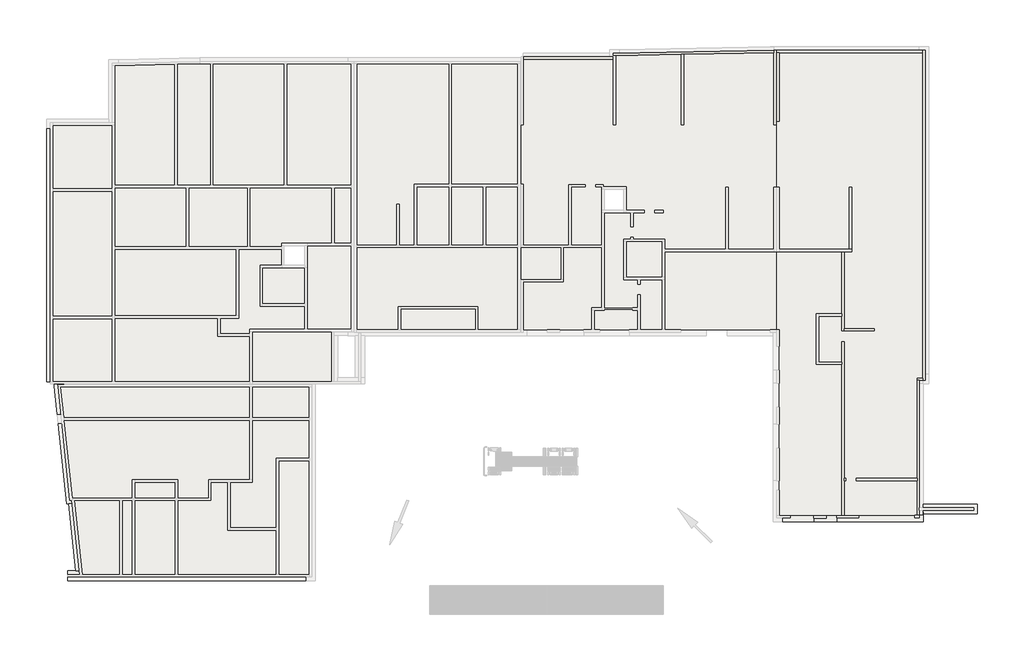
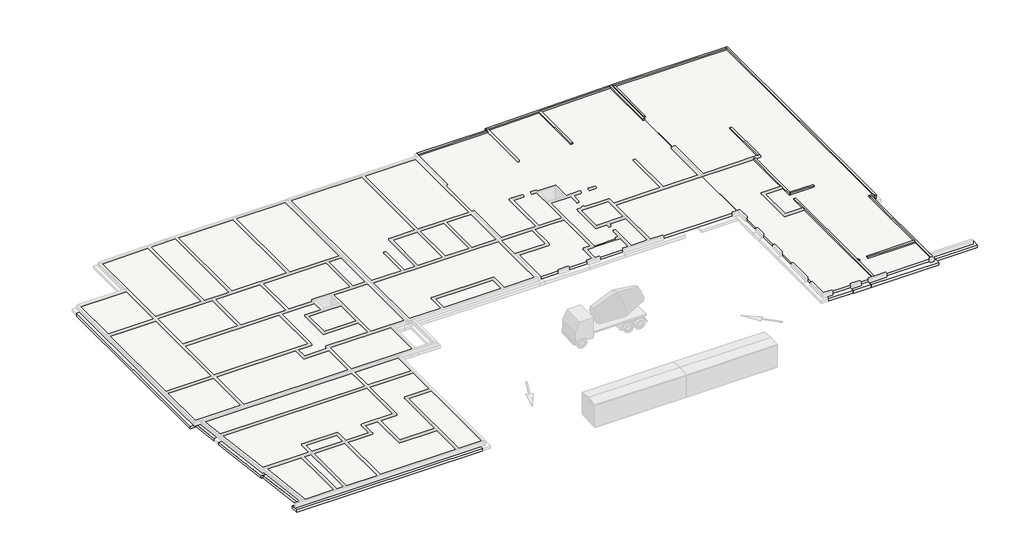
# One storey, part 3 of 5: 15 footings, 15 walls, 7 slabs.
"""IFC4 building model written with IfcOpenShell, lengths in millimetres."""

import ifcopenshell
import ifcopenshell.guid

model = None  # the IFC model being written
_history = None  # IfcOwnerHistory: only IFC2X3 demands one
_inside = {}  # id of a spatial element -> (the spatial element, [elements in it])
_under = {}  # id of a project, library or spatial element -> (it, [spatial elements below it])
_declared = {}  # id of a project -> (the project, [libraries it declares])
_typed = {}  # id of a type object -> (the type object, [elements of that type])
_made_of = {}  # id of a material, layer set ... -> (it, [elements and type objects made of it])


def new_model(schema):
    """Start an empty IFC model of exactly this schema.

    Asked for "IFC4X3", IfcOpenShell would pick the latest addendum, in which some entities
    have other attributes; the version numbers below select the first issue.
    IFC2X3 requires an IfcOwnerHistory on every rooted entity: one is made here for all.
    """
    global model, _history
    if schema == "IFC4X3":
        model = ifcopenshell.file(schema_version=(4, 3, 0, 0))
    else:
        model = ifcopenshell.file(schema=schema)
    _inside.clear()
    _under.clear()
    _declared.clear()
    _typed.clear()
    _made_of.clear()
    _history = None
    if model.schema == "IFC2X3":
        org = make("IfcOrganization", Name="unknown")
        user = make(
            "IfcPersonAndOrganization",
            ThePerson=make("IfcPerson", FamilyName="unknown"),
            TheOrganization=org,
        )
        app = make(
            "IfcApplication",
            ApplicationDeveloper=org,
            Version="unknown",
            ApplicationFullName="unknown",
            ApplicationIdentifier="unknown",
        )
        _history = make(
            "IfcOwnerHistory",
            OwningUser=user,
            OwningApplication=app,
            ChangeAction="ADDED",
            CreationDate=0,
        )
    return model


def make(cls, **values):
    """One entity of the class cls with the attributes given. An attribute that is None is left unset."""
    return model.create_entity(
        cls, **{name: value for name, value in values.items() if value is not None}
    )


def rooted(cls, **values):
    """An entity with a GlobalId (a new one), such as an element, a storey or a relation."""
    return make(cls, GlobalId=ifcopenshell.guid.new(), OwnerHistory=_history, **values)


def si_unit(unit_type, name, prefix=None):
    """IfcSIUnit, for example si_unit("LENGTHUNIT", "METRE", prefix="MILLI")."""
    return make("IfcSIUnit", UnitType=unit_type, Prefix=prefix, Name=name)


def assignment(units):
    """IfcUnitAssignment: the units of a project."""
    return None if units is None else make("IfcUnitAssignment", Units=units)


def point(xyz):
    """IfcCartesianPoint."""
    return None if xyz is None else make("IfcCartesianPoint", Coordinates=xyz)


def direction(xyz):
    """IfcDirection."""
    return None if xyz is None else make("IfcDirection", DirectionRatios=xyz)


def frame(location, z_axis=None, x_axis=None):
    """IfcAxis2Placement3D, a coordinate frame: its origin and axes. An axis left out is left unset."""
    return make(
        "IfcAxis2Placement3D",
        Location=point(location),
        Axis=direction(z_axis),
        RefDirection=direction(x_axis),
    )


def origin():
    """The frame at (0, 0, 0) with its axes left unset."""
    return frame((0.0, 0.0, 0.0))


def place(relative_to, where):
    """IfcLocalPlacement: puts the frame where relative to a parent placement (None: the world)."""
    return make(
        "IfcLocalPlacement", PlacementRelTo=relative_to, RelativePlacement=where
    )


def context(
    kind, dimensions, precision=None, world=None, true_north=None, identifier=None
):
    """IfcGeometricRepresentationContext, for example the 3D "Model" context."""
    return make(
        "IfcGeometricRepresentationContext",
        ContextIdentifier=identifier,
        ContextType=kind,
        CoordinateSpaceDimension=dimensions,
        Precision=precision,
        WorldCoordinateSystem=world,
        TrueNorth=true_north,
    )


def project(units=None, contexts=None):
    """IfcProject with its units and contexts."""
    return rooted(
        "IfcProject",
        Name="project",
        RepresentationContexts=contexts,
        UnitsInContext=assignment(units),
    )


def spatial(cls, under=None, at=None, **own):
    """A site, building, storey or space (cls), placed at a placement, below another one or the project."""
    s = rooted(cls, ObjectPlacement=at, **own)
    if under is not None:
        _under.setdefault(under.id(), (under, []))[1].append(s)
    return s


def polyline(points):
    """IfcPolyline through the points."""
    return make("IfcPolyline", Points=[point(p) for p in points])


def outline(outer, holes=None, kind="AREA"):
    """IfcArbitraryClosedProfileDef: a profile drawn as a closed curve; with holes, ...WithVoids."""
    if holes is None:
        return make("IfcArbitraryClosedProfileDef", ProfileType=kind, OuterCurve=outer)
    return make(
        "IfcArbitraryProfileDefWithVoids",
        ProfileType=kind,
        OuterCurve=outer,
        InnerCurves=holes,
    )


def extrude(swept, where, along, depth):
    """IfcExtrudedAreaSolid: the profile swept, set in the frame where, extruded along a direction by depth."""
    return make(
        "IfcExtrudedAreaSolid",
        SweptArea=swept,
        Position=where,
        ExtrudedDirection=direction(along),
        Depth=depth,
    )


def faces_of(points, faces, orient=None, outer=None):
    """IfcFace entities. A face is a list of loops; a loop is a list of indices into points, from 0.

    orient and outer hold one flag for each loop. By default every Orientation is true, the
    first loop of a face is its IfcFaceOuterBound and the others are IfcFaceBound.
    """
    made = []
    for i, loops in enumerate(faces):
        bounds = []
        for j, loop in enumerate(loops):
            is_outer = j == 0 if outer is None else outer[i][j]
            bounds.append(
                make(
                    "IfcFaceOuterBound" if is_outer else "IfcFaceBound",
                    Bound=make("IfcPolyLoop", Polygon=[points[k] for k in loop]),
                    Orientation=True if orient is None else orient[i][j],
                )
            )
        made.append(make("IfcFace", Bounds=bounds))
    return made


def faceted_brep(points, faces, orient=None, outer=None, voids=None):
    """IfcFacetedBrep: a solid bounded by flat faces; with voids (closed shells), ...WithVoids."""
    shared = [point(p) for p in points]
    hull = make("IfcClosedShell", CfsFaces=faces_of(shared, faces, orient, outer))
    if voids is None:
        return make("IfcFacetedBrep", Outer=hull)
    return make(
        "IfcFacetedBrepWithVoids",
        Outer=hull,
        Voids=[
            make(cls, CfsFaces=faces_of(shared, fs, o, b)) for cls, fs, o, b in voids
        ],
    )


def shape(context_of_items, identifier, shape_type, items):
    """IfcShapeRepresentation: the items that make up one representation, for example the "Body"."""
    return make(
        "IfcShapeRepresentation",
        ContextOfItems=context_of_items,
        RepresentationIdentifier=identifier,
        RepresentationType=shape_type,
        Items=items,
    )


def made_of(thing, what):
    """Note that an element or type object is made of a material, layer set ...; save() writes the relation."""
    if what is not None:
        _made_of.setdefault(what.id(), (what, []))[1].append(thing)
    return thing


def element(
    cls,
    number,
    at=None,
    inside=None,
    cuts=None,
    type_object=None,
    material=None,
    context=None,
    identifier="Body",
    shape_type=None,
    held_by="IfcProductDefinitionShape",
    body=None,
    shapes=None,
    **own,
):
    """One element of the class cls, such as IfcWall. Its Tag is "e" and its number.

    at: its placement. inside: the storey or other place that contains it. cuts: it is an
    opening in that element (IfcRelVoidsElement). A single representation is given by context,
    identifier, shape_type and body (its items); several are given by shapes. held_by: the class
    of the entity that holds the representations. save() writes the other relations.
    """
    e = rooted(cls, Tag="e%d" % number, ObjectPlacement=at, **own)
    if body is not None:
        shapes = [shape(context, identifier, shape_type, body)]
    if shapes is not None:
        e.Representation = make(held_by, Representations=shapes)
    if inside is not None:
        _inside.setdefault(inside.id(), (inside, []))[1].append(e)
    if cuts is not None:
        rooted(
            "IfcRelVoidsElement", RelatingBuildingElement=cuts, RelatedOpeningElement=e
        )
    if type_object is not None:
        _typed.setdefault(type_object.id(), (type_object, []))[1].append(e)
    return made_of(e, material)


def aggregate(whole, parts):
    """IfcRelAggregates: a whole, such as a stair, and the parts it consists of."""
    return rooted("IfcRelAggregates", RelatingObject=whole, RelatedObjects=parts)


def save(model, path):
    """Write the relations noted so far, then the file.

    IfcRelAggregates (storeys below a building ...), IfcRelContainedInSpatialStructure (elements
    in a storey), IfcRelDefinesByType, IfcRelAssociatesMaterial and IfcRelDeclares: one each for
    every whole, place, type object, material and project.
    """
    for whole, parts in _under.values():
        aggregate(whole, parts)
    for where, things in _inside.values():
        rooted(
            "IfcRelContainedInSpatialStructure",
            RelatedElements=things,
            RelatingStructure=where,
        )
    for kind, things in _typed.values():
        rooted("IfcRelDefinesByType", RelatedObjects=things, RelatingType=kind)
    for what, things in _made_of.values():
        rooted("IfcRelAssociatesMaterial", RelatedObjects=things, RelatingMaterial=what)
    for by, libraries in _declared.values():
        rooted("IfcRelDeclares", RelatingContext=by, RelatedDefinitions=libraries)
    model.write(path)


model = new_model("IFC4")

# Units and contexts
model_context = context("Model", 3, world=origin())
ifc_project = project(units=[si_unit("LENGTHUNIT", "METRE", prefix="MILLI")], contexts=[model_context])

# Site, building, storey
site = spatial("IfcSite", under=ifc_project)
building = spatial("IfcBuilding", under=site)
storey = spatial("IfcBuildingStorey", under=building, Name="Base Mur soubassement", Elevation=-480.0)

# Footings
placement = place(None, origin())
element("IfcFooting", 1, ObjectType="Soubassement 30 cm/30 cm x 30 cm", at=placement, inside=storey, context=model_context, shape_type="Brep", body=[
    faceted_brep([(-1963.0020232, 10315.4117008, -480.0), (-1963.0020232, 10315.4117008, -780.0), (-1347.1943929, 10315.4117008, -780.0), (-1163.0020232, 10315.4117008, -780.0), (-1163.0020232, 10315.4117008, -480.0), (-1347.1943929, 10315.4117008, -480.0), (-1163.0020232, 10615.4625547, -480.0), (-1163.0020232, 15300.3661348, -480.0), (-1163.0020232, 16100.3661348, -480.0), (-1163.0020232, 26008.0923089, -480.0), (-1163.0020232, 26808.0923089, -480.0), (-1163.0020232, 31528.092309, -480.0), (-1963.0020232, 31528.092309, -480.0), (-1963.0020232, 31528.092309, -780.0), (-1163.0020232, 31528.092309, -780.0), (-1163.0020232, 26808.0923089, -780.0), (-1163.0020232, 26008.0923089, -780.0), (-1163.0020232, 16100.3661348, -780.0), (-1163.0020232, 15300.3661348, -780.0), (-1163.0020232, 10615.4625547, -780.0)], [[[0, 1, 2, 3, 4, 5]], [[0, 5, 4, 6, 7, 8, 9, 10, 11, 12]], [[1, 0, 12, 13]], [[3, 2, 1, 13, 14, 15, 16, 17, 18, 19]], [[4, 3, 19, 18, 17, 16, 15, 14, 11, 10, 9, 8, 7, 6]], [[12, 11, 14, 13]]]),
])
element("IfcFooting", 2, ObjectType="Soubassement 30 cm/30 cm x 30 cm", at=placement, inside=storey, context=model_context, shape_type="Brep", body=[
    faceted_brep([(-169.9979603, 6768.5535935, -480.0), (-974.404584, 6768.5535935, -480.0), (-267.3246929, 41.1378118, -480.0), (-108.0982579, 41.1378118, -480.0), (537.0819307, 41.1378118, -480.0), (452.9985425, 841.1378118, -480.0), (-169.9979603, 6768.5535935, -780.0), (537.0819307, 41.1378118, -780.0), (452.9985425, 841.1378118, -780.0), (-974.404584, 6768.5535935, -780.0), (-108.0982579, 41.1378118, -780.0), (-267.3246929, 41.1378118, -780.0)], [[[0, 1, 2, 3, 4, 5]], [[6, 0, 5, 4, 7, 8]], [[9, 6, 8, 7, 10, 11]], [[1, 9, 11, 2]], [[1, 0, 6, 9]], [[4, 3, 2, 11, 10, 7]]]),
    faceted_brep([(-1058.4879722, 7568.5535935, -480.0), (-254.0813485, 7568.5535935, -480.0), (-463.9649378, 9565.4625547, -480.0), (-574.3243848, 10615.4625547, -480.0), (-1163.0020232, 10615.4625547, -480.0), (-1163.0020232, 10315.4117008, -480.0), (-1347.1943929, 10315.4117008, -480.0), (-254.0813485, 7568.5535935, -780.0), (-463.9649378, 9565.4625547, -780.0), (-574.3243848, 10615.4625547, -780.0), (-1058.4879722, 7568.5535935, -780.0), (-1347.1943929, 10315.4117008, -780.0), (-1163.0020232, 10315.4117008, -780.0), (-1163.0020232, 10615.4625547, -780.0)], [[[0, 1, 2, 3, 4, 5, 6]], [[1, 7, 8, 9, 3, 2]], [[7, 10, 11, 12, 13, 9, 8]], [[10, 0, 6, 11]], [[1, 0, 10, 7]], [[3, 9, 13, 4]], [[5, 12, 11, 6]], [[12, 5, 4, 13]]]),
])
element("IfcFooting", 3, ObjectType="Soubassement 30 cm/30 cm x 30 cm", at=placement, inside=storey, context=model_context, shape_type="Brep", body=[
    faceted_brep([(1287.6563061, -5585.1620119, -480.0), (696.3083658, 41.1378118, -480.0), (612.2249776, 841.1378118, -480.0), (452.9985425, 841.1378118, -480.0), (537.0819307, 41.1378118, -480.0), (-108.0982579, 41.1378118, -480.0), (483.2496825, -5585.1620119, -480.0), (1287.6563061, -5585.1620119, -780.0), (696.3083658, 41.1378118, -780.0), (612.2249776, 841.1378118, -780.0), (483.2496825, -5585.1620119, -780.0), (-108.0982579, 41.1378118, -780.0), (537.0819307, 41.1378118, -780.0), (452.9985425, 841.1378118, -780.0)], [[[0, 1, 2, 3, 4, 5, 6]], [[2, 1, 0, 7, 8, 9]], [[9, 8, 7, 10, 11, 12, 13]], [[10, 6, 5, 11]], [[0, 6, 10, 7]], [[2, 9, 13, 3]], [[12, 4, 3, 13]], [[4, 12, 11, 5]]]),
])
element("IfcFooting", 4, ObjectType="Soubassement 30 cm/30 cm x 30 cm", at=placement, inside=storey, context=model_context, shape_type="Brep", body=[
    faceted_brep([(-184.0651209, -6385.1620119, -780.0), (-184.0651209, -6385.1620119, -480.0), (-184.0651209, -5585.1620119, -480.0), (-184.0651209, -5585.1620119, -780.0), (19795.920738, -6385.1620119, -480.0), (19795.920738, -5585.1620119, -480.0), (17823.8377948, -5585.1620119, -480.0), (17023.8377948, -5585.1620119, -480.0), (9359.0521384, -5585.1620119, -480.0), (8559.0521384, -5585.1620119, -480.0), (5732.5686745, -5585.1620119, -480.0), (4932.5686745, -5585.1620119, -480.0), (4682.6863545, -5585.1620119, -480.0), (3882.6863545, -5585.1620119, -480.0), (1287.6563061, -5585.1620119, -480.0), (483.2496825, -5585.1620119, -480.0), (19795.920738, -6385.1620119, -780.0), (483.2496825, -5585.1620119, -780.0), (1287.6563061, -5585.1620119, -780.0), (3882.6863545, -5585.1620119, -780.0), (4682.6863545, -5585.1620119, -780.0), (4932.5686745, -5585.1620119, -780.0), (5732.5686745, -5585.1620119, -780.0), (8559.0521384, -5585.1620119, -780.0), (9359.0521384, -5585.1620119, -780.0), (17023.8377948, -5585.1620119, -780.0), (17823.8377948, -5585.1620119, -780.0), (19795.920738, -5585.1620119, -780.0)], [[[0, 1, 2, 3]], [[2, 1, 4, 5, 6, 7, 8, 9, 10, 11, 12, 13, 14, 15]], [[1, 0, 16, 4]], [[0, 3, 17, 18, 19, 20, 21, 22, 23, 24, 25, 26, 27, 16]], [[3, 2, 15, 14, 13, 12, 11, 10, 9, 8, 7, 6, 5, 27, 26, 25, 24, 23, 22, 21, 20, 19, 18, 17]], [[5, 4, 16, 27]]]),
])
element("IfcFooting", 5, ObjectType="Soubassement 30 cm/30 cm x 30 cm", at=placement, inside=storey, context=model_context, shape_type="SweptSolid", body=[
    extrude(outline(polyline([(3882.6863545, 41.1378118), (4682.6863545, 41.1378118), (4682.6863545, -5585.1620119), (3882.6863545, -5585.1620119), (3882.6863545, 41.1378118)])), frame((0.0, 0.0, -780.0), z_axis=(0.0, 0.0, 1.0), x_axis=(1.0, 0.0, 0.0)), (0.0, 0.0, 1.0), 300.0),
])
element("IfcFooting", 6, ObjectType="Soubassement 30 cm/30 cm x 30 cm", at=placement, inside=storey, context=model_context, shape_type="Brep", body=[
    faceted_brep([(4932.5686745, 2354.6479064, -480.0), (4932.5686745, 841.1378118, -480.0), (4932.5686745, 41.1378118, -480.0), (4932.5686745, -5585.1620119, -480.0), (5732.5686745, -5585.1620119, -480.0), (5732.5686745, 41.1378118, -480.0), (5732.5686745, 841.1378118, -480.0), (5732.5686745, 1554.6479064, -480.0), (5732.5686745, 2354.6479064, -480.0), (5732.5686745, 2354.6479064, -780.0), (5732.5686745, -5585.1620119, -780.0), (5732.5686745, 41.1378118, -780.0), (5732.5686745, 841.1378118, -780.0), (5732.5686745, 1554.6479064, -780.0), (4932.5686745, 2354.6479064, -780.0), (4932.5686745, -5585.1620119, -780.0), (4932.5686745, 41.1378118, -780.0), (4932.5686745, 841.1378118, -780.0)], [[[0, 1, 2, 3, 4, 5, 6, 7, 8]], [[9, 8, 7, 6, 5, 4, 10, 11, 12, 13]], [[14, 9, 13, 12, 11, 10, 15, 16, 17]], [[0, 14, 17, 16, 15, 3, 2, 1]], [[4, 3, 15, 10]], [[0, 8, 9, 14]]]),
])
element("IfcFooting", 7, ObjectType="Soubassement 30 cm/30 cm x 30 cm", at=placement, inside=storey, context=model_context, shape_type="Brep", body=[
    faceted_brep([(612.2249776, 841.1378118, -480.0), (696.3083658, 41.1378118, -480.0), (3882.6863545, 41.1378118, -480.0), (4682.6863545, 41.1378118, -480.0), (4932.5686745, 41.1378118, -480.0), (4932.5686745, 841.1378118, -480.0), (612.2249776, 841.1378118, -780.0), (4932.5686745, 841.1378118, -780.0), (696.3083658, 41.1378118, -780.0), (4932.5686745, 41.1378118, -780.0), (4682.6863545, 41.1378118, -780.0), (3882.6863545, 41.1378118, -780.0)], [[[0, 1, 2, 3, 4, 5]], [[6, 0, 5, 7]], [[8, 6, 7, 9, 10, 11]], [[1, 8, 11, 10, 9, 4, 3, 2]], [[1, 0, 6, 8]], [[5, 4, 9, 7]]]),
    faceted_brep([(12142.4727838, 41.1378118, -480.0), (12142.4727838, 841.1378118, -480.0), (11342.4727838, 841.1378118, -480.0), (9359.0521384, 841.1378118, -480.0), (8559.0521384, 841.1378118, -480.0), (5732.5686745, 841.1378118, -480.0), (5732.5686745, 41.1378118, -480.0), (8559.0521384, 41.1378118, -480.0), (9359.0521384, 41.1378118, -480.0), (12142.4727838, 841.1378118, -780.0), (11342.4727838, 841.1378118, -780.0), (9359.0521384, 841.1378118, -780.0), (8559.0521384, 841.1378118, -780.0), (5732.5686745, 841.1378118, -780.0), (12142.4727838, 41.1378118, -780.0), (9359.0521384, 41.1378118, -780.0), (8559.0521384, 41.1378118, -780.0), (5732.5686745, 41.1378118, -780.0)], [[[0, 1, 2, 3, 4, 5, 6, 7, 8]], [[1, 9, 10, 11, 12, 13, 5, 4, 3, 2]], [[9, 14, 15, 16, 17, 13, 12, 11, 10]], [[14, 0, 8, 7, 6, 17, 16, 15]], [[6, 5, 13, 17]], [[1, 0, 14, 9]]]),
])
element("IfcFooting", 8, ObjectType="Soubassement 30 cm/30 cm x 30 cm", at=placement, inside=storey, context=model_context, shape_type="Brep", body=[
    faceted_brep([(8559.0521384, -5585.1620119, -480.0), (9359.0521384, -5585.1620119, -480.0), (9359.0521384, 41.1378118, -480.0), (8559.0521384, 41.1378118, -480.0), (9359.0521384, -5585.1620119, -780.0), (9359.0521384, 41.1378118, -780.0), (8559.0521384, -5585.1620119, -780.0), (8559.0521384, 41.1378118, -780.0)], [[[0, 1, 2, 3]], [[1, 4, 5, 2]], [[4, 6, 7, 5]], [[6, 0, 3, 7]], [[1, 0, 6, 4]], [[3, 2, 5, 7]]]),
    faceted_brep([(9359.0521384, 2354.6479064, -480.0), (8559.0521384, 2354.6479064, -480.0), (8559.0521384, 1554.6479064, -480.0), (8559.0521384, 841.1378118, -480.0), (9359.0521384, 841.1378118, -480.0), (9359.0521384, 2354.6479064, -780.0), (9359.0521384, 841.1378118, -780.0), (8559.0521384, 2354.6479064, -780.0), (8559.0521384, 841.1378118, -780.0), (8559.0521384, 1554.6479064, -780.0)], [[[0, 1, 2, 3, 4]], [[5, 0, 4, 6]], [[7, 5, 6, 8, 9]], [[1, 7, 9, 8, 3, 2]], [[4, 3, 8, 6]], [[1, 0, 5, 7]]]),
])
element("IfcFooting", 9, ObjectType="Soubassement 30 cm/30 cm x 30 cm", at=placement, inside=storey, context=model_context, shape_type="Brep", body=[
    faceted_brep([(12965.8329945, 1554.5667291, -480.0), (12965.8329945, -2445.4332709, -480.0), (13765.8329945, -2445.4332709, -480.0), (13765.8329945, -1645.4332709, -480.0), (13765.8329945, 1554.5667291, -480.0), (13765.8329945, 1554.5667291, -780.0), (13765.8329945, -2445.4332709, -780.0), (13765.8329945, -1645.4332709, -780.0), (12965.8329945, 1554.5667291, -780.0), (12965.8329945, -2445.4332709, -780.0)], [[[0, 1, 2, 3, 4]], [[5, 4, 3, 2, 6, 7]], [[8, 5, 7, 6, 9]], [[0, 8, 9, 1]], [[0, 4, 5, 8]], [[2, 1, 9, 6]]]),
])
element("IfcFooting", 10, ObjectType="Soubassement 30 cm/30 cm x 30 cm", at=placement, inside=storey, context=model_context, shape_type="SweptSolid", body=[
    extrude(outline(polyline([(17023.8377948, -1645.4332709), (17023.8377948, -2445.4332709), (13765.8329945, -2445.4332709), (13765.8329945, -1645.4332709), (17023.8377948, -1645.4332709)])), frame((0.0, 0.0, -780.0), z_axis=(0.0, 0.0, 1.0), x_axis=(1.0, 0.0, 0.0)), (0.0, 0.0, 1.0), 300.0),
])
element("IfcFooting", 11, ObjectType="Soubassement 30 cm/30 cm x 30 cm", at=placement, inside=storey, context=model_context, shape_type="Brep", body=[
    faceted_brep([(17023.8377948, 4181.8208674, -480.0), (17023.8377948, -1645.4332709, -480.0), (17023.8377948, -2445.4332709, -480.0), (17023.8377948, -5585.1620119, -480.0), (17823.8377948, -5585.1620119, -480.0), (17823.8377948, 3381.8208674, -480.0), (17823.8377948, 4181.8208674, -480.0), (17823.8377948, 4181.8208674, -780.0), (17823.8377948, -5585.1620119, -780.0), (17823.8377948, 3381.8208674, -780.0), (17023.8377948, 4181.8208674, -780.0), (17023.8377948, -5585.1620119, -780.0), (17023.8377948, -2445.4332709, -780.0), (17023.8377948, -1645.4332709, -780.0)], [[[0, 1, 2, 3, 4, 5, 6]], [[7, 6, 5, 4, 8, 9]], [[10, 7, 9, 8, 11, 12, 13]], [[0, 10, 13, 12, 11, 3, 2, 1]], [[0, 6, 7, 10]], [[4, 3, 11, 8]]]),
])
element("IfcFooting", 12, ObjectType="Soubassement 30 cm/30 cm x 30 cm", at=placement, inside=storey, context=model_context, shape_type="Brep", body=[
    faceted_brep([(62454.5225082, -1433.5235574, -480.0), (62454.5225082, -1433.5235574, -780.0), (62454.5225082, -641.1001328, -780.0), (62454.5225082, -633.5235574, -780.0), (62454.5225082, -633.5235574, -480.0), (62454.5225082, -641.1001328, -480.0), (59852.8933514, -633.5235574, -480.0), (59852.8933514, -1433.5235574, -480.0), (59852.8933514, -1433.5235574, -780.0), (59852.8933514, -633.5235574, -780.0)], [[[0, 1, 2, 3, 4, 5]], [[0, 5, 4, 6, 7]], [[1, 0, 7, 8]], [[3, 2, 1, 8, 9]], [[4, 3, 9, 6]], [[7, 6, 9, 8]]]),
])
element("IfcFooting", 13, ObjectType="Soubassement 30 cm/30 cm x 30 cm", at=placement, inside=storey, context=model_context, shape_type="Brep", body=[
    faceted_brep([(64375.0708978, -641.1001328, -480.0), (64375.0708978, -1437.3118451, -480.0), (64375.0708978, -1441.1001328, -480.0), (64375.0708978, -1441.1001328, -780.0), (64375.0708978, -1437.3118451, -780.0), (64375.0708978, -641.1001328, -780.0), (62454.5225082, -1441.1001328, -480.0), (62454.5225082, -1433.5235574, -480.0), (62454.5225082, -641.1001328, -480.0), (62454.5225082, -641.1001328, -780.0), (62454.5225082, -1433.5235574, -780.0), (62454.5225082, -1441.1001328, -780.0)], [[[0, 1, 2, 3, 4, 5]], [[6, 7, 8, 9, 10, 11]], [[0, 8, 7, 6, 2, 1]], [[3, 2, 6, 11]], [[5, 4, 3, 11, 10, 9]], [[0, 5, 9, 8]]]),
])
element("IfcFooting", 14, ObjectType="Soubassement 30 cm/30 cm x 30 cm", at=placement, inside=storey, context=model_context, shape_type="Brep", body=[
    faceted_brep([(71637.0301152, -1437.3118451, -480.0), (71637.0301152, -1437.3118451, -780.0), (71637.0301152, -788.991972, -780.0), (71637.0301152, -637.3118451, -780.0), (71637.0301152, -637.3118451, -480.0), (71637.0301152, -788.991972, -480.0), (64375.0708978, -1437.3118451, -780.0), (64375.0708978, -1437.3118451, -480.0), (64375.0708978, -641.1001328, -480.0), (64375.0708978, -637.3118451, -480.0), (64375.0708978, -637.3118451, -780.0), (64375.0708978, -641.1001328, -780.0), (71617.0236897, -637.3118451, -480.0), (71617.0236897, -917.313191, -480.0), (70817.0236897, -917.313191, -480.0), (70817.0236897, -637.3118451, -480.0), (65313.2256523, -637.3118451, -480.0), (64513.2256523, -637.3118451, -480.0), (64513.2256523, -637.3118451, -780.0), (65313.2256523, -637.3118451, -780.0), (70817.0236897, -637.3118451, -780.0), (70817.0236897, -917.313191, -780.0), (71617.0236897, -917.313191, -780.0), (71617.0236897, -637.3118451, -780.0)], [[[0, 1, 2, 3, 4, 5]], [[6, 7, 8, 9, 10, 11]], [[7, 0, 5, 4, 12, 13, 14, 15, 16, 17, 9, 8]], [[1, 0, 7, 6]], [[3, 2, 1, 6, 11, 10, 18, 19, 20, 21, 22, 23]], [[10, 9, 17, 16, 15, 20, 19, 18]], [[4, 3, 23, 12]], [[14, 21, 20, 15]], [[22, 13, 12, 23]], [[21, 14, 13, 22]]]),
])
element("IfcFooting", 15, ObjectType="Soubassement 30 cm/30 cm x 30 cm", at=placement, inside=storey, context=model_context, shape_type="SweptSolid", body=[
    extrude(outline(polyline([(76187.1454515, 11.008028), (76187.1454515, -788.991972), (71637.0301152, -788.991972), (71637.0301152, -637.3118451), (71617.0236897, -637.3118451), (71617.0236897, 11.008028), (76187.1454515, 11.008028)])), frame((0.0, 0.0, -780.0), z_axis=(0.0, 0.0, 1.0), x_axis=(1.0, 0.0, 0.0)), (0.0, 0.0, 1.0), 300.0),
])

# Slabs
element("IfcSlab", 16, ObjectType="Dalle en béton - 300 mm SF", at=placement, inside=storey, context=model_context, shape_type="SweptSolid", body=[
    extrude(outline(polyline([(54755.0439194, 27157.8817009), (54755.0439194, 26457.7796483), (44757.2462422, 26457.7796483), (44757.2462422, 27157.8817009), (54755.0439194, 27157.8817009)])), frame((0.0, 0.0, -780.0), z_axis=(0.0, 0.0, 1.0), x_axis=(1.0, 0.0, 0.0)), (0.0, 0.0, 1.0), 300.0),
])
element("IfcSlab", 17, ObjectType="Dalle en béton - 300 mm SF", at=placement, inside=storey, context=model_context, shape_type="SweptSolid", body=[
    extrude(outline(polyline([(58792.2183923, 27157.8817009), (58792.2183923, 26457.7796483), (55555.0439194, 26457.7796483), (55555.0439194, 27157.8817009), (58792.2183923, 27157.8817009)])), frame((0.0, 0.0, -780.0), z_axis=(0.0, 0.0, 1.0), x_axis=(1.0, 0.0, 0.0)), (0.0, 0.0, 1.0), 300.0),
])
element("IfcSlab", 18, ObjectType="Dalle en béton - 300 mm SF", at=placement, inside=storey, context=model_context, shape_type="SweptSolid", body=[
    extrude(outline(polyline([(65113.8694348, 27157.8817009), (65113.8694348, 26457.7796483), (59852.3933514, 26457.7796483), (59852.3933514, 27157.8817009), (65113.8694348, 27157.8817009)])), frame((0.0, 0.0, -780.0), z_axis=(0.0, 0.0, 1.0), x_axis=(1.0, 0.0, 0.0)), (0.0, 0.0, 1.0), 300.0),
])
element("IfcSlab", 19, ObjectType="Dalle en béton - 300 mm SF", at=placement, inside=storey, context=model_context, shape_type="SweptSolid", body=[
    extrude(outline(polyline([(71302.998512, 27157.8817009), (71302.998512, 26457.7796483), (65913.8694348, 26457.7796483), (65913.8694348, 27157.8817009), (71302.998512, 27157.8817009)])), frame((0.0, 0.0, -780.0), z_axis=(0.0, 0.0, 1.0), x_axis=(1.0, 0.0, 0.0)), (0.0, 0.0, 1.0), 300.0),
])
element("IfcSlab", 20, ObjectType="Tout venant 30 cm", at=placement, inside=storey, context=model_context, shape_type="SweptSolid", body=[
    extrude(outline(polyline([(20095.920738, 3681.8208674), (20095.920738, -5885.1620119), (17523.8377948, -5885.1620119), (17523.8377948, 3681.8208674), (20095.920738, 3681.8208674)])), frame((0.0, 0.0, -480.0), z_axis=(0.0, 0.0, 1.0), x_axis=(1.0, 0.0, 0.0)), (0.0, 0.0, 1.0), 300.0),
])
element("IfcSlab", 21, ObjectType="Tout venant 30 cm", at=placement, inside=storey, context=model_context, shape_type="SweptSolid", body=[
    extrude(outline(polyline([(8859.0521384, 1854.6479064), (8859.0521384, 541.1378118), (5432.5686745, 541.1378118), (5432.5686745, 1854.6479064), (8859.0521384, 1854.6479064)])), frame((0.0, 0.0, -480.0), z_axis=(0.0, 0.0, 1.0), x_axis=(1.0, 0.0, 0.0)), (0.0, 0.0, 1.0), 300.0),
])
element("IfcSlab", 22, ObjectType="Tout venant 30 cm", at=placement, inside=storey, context=model_context, shape_type="SweptSolid", body=[
    extrude(outline(polyline([(5232.5686745, 365.3188854), (5232.5686745, -5860.9809383), (4382.6863545, -5860.9809383), (4382.6863545, 365.3188854), (5232.5686745, 365.3188854)])), frame((0.0, 0.0, -480.0), z_axis=(0.0, 0.0, 1.0), x_axis=(1.0, 0.0, 0.0)), (0.0, 0.0, 1.0), 300.0),
    extrude(outline(polyline([(4182.6863545, 365.3188854), (4182.6863545, -5860.9809383), (1017.5350928, -5860.9809383), (363.1246113, 365.3188854), (4182.6863545, 365.3188854)])), frame((0.0, 0.0, -480.0), z_axis=(0.0, 0.0, 1.0), x_axis=(1.0, 0.0, 0.0)), (0.0, 0.0, 1.0), 300.0),
    extrude(outline(polyline([(15109.3203129, 7092.7346671), (15109.3203129, 2078.7478027), (11642.4727838, 2078.7478027), (11642.4727838, 565.3188854), (9059.0521384, 565.3188854), (9059.0521384, 2078.82898), (5232.5686745, 2078.82898), (5232.5686745, 565.3188854), (182.8773292, 565.3188854), (-503.1817148, 7092.7346671), (15109.3203129, 7092.7346671)])), frame((0.0, 0.0, -480.0), z_axis=(0.0, 0.0, 1.0), x_axis=(1.0, 0.0, 0.0)), (0.0, 0.0, 1.0), 300.0),
    extrude(outline(polyline([(8859.0521384, 1878.82898), (8859.0521384, 565.3188854), (5432.5686745, 565.3188854), (5432.5686745, 1878.82898), (8859.0521384, 1878.82898)])), frame((0.0, 0.0, -480.0), z_axis=(0.0, 0.0, 1.0), x_axis=(1.0, 0.0, 0.0)), (0.0, 0.0, 1.0), 300.0),
    extrude(outline(polyline([(8859.0521384, 365.3188854), (8859.0521384, -5860.9809383), (5432.5686745, -5860.9809383), (5432.5686745, 365.3188854), (8859.0521384, 365.3188854)])), frame((0.0, 0.0, -480.0), z_axis=(0.0, 0.0, 1.0), x_axis=(1.0, 0.0, 0.0)), (0.0, 0.0, 1.0), 300.0),
    extrude(outline(polyline([(11842.4727838, 365.3188854), (11842.4727838, 1878.7478027), (13265.8329945, 1878.7478027), (13265.8329945, -2121.2521973), (17323.8377948, -2121.2521973), (17323.8377948, -5860.9809383), (9059.0521384, -5860.9809383), (9059.0521384, 365.3188854), (11842.4727838, 365.3188854)])), frame((0.0, 0.0, -480.0), z_axis=(0.0, 0.0, 1.0), x_axis=(1.0, 0.0, 0.0)), (0.0, 0.0, 1.0), 300.0),
    extrude(outline(polyline([(20095.920738, 9889.6436283), (20095.920738, 7292.7346671), (15309.3203129, 7292.7346671), (15309.3203129, 9889.6436283), (20095.920738, 9889.6436283)])), frame((0.0, 0.0, -480.0), z_axis=(0.0, 0.0, 1.0), x_axis=(1.0, 0.0, 0.0)), (0.0, 0.0, 1.0), 300.0),
    extrude(outline(polyline([(15109.3203129, 7292.7346671), (-524.2025618, 7292.7346671), (-797.1486922, 9889.6436283), (15109.3203129, 9889.6436283), (15109.3203129, 7292.7346671)])), frame((0.0, 0.0, -480.0), z_axis=(0.0, 0.0, 1.0), x_axis=(1.0, 0.0, 0.0)), (0.0, 0.0, 1.0), 300.0),
    extrude(outline(polyline([(15309.3203129, 1878.7478027), (15309.3203129, 7092.7346671), (20095.920738, 7092.7346671), (20095.920738, 3906.001941), (17323.8377948, 3906.001941), (17323.8377948, -1921.2521973), (13465.8329945, -1921.2521973), (13465.8329945, 1878.7478027), (15309.3203129, 1878.7478027)])), frame((0.0, 0.0, -480.0), z_axis=(0.0, 0.0, 1.0), x_axis=(1.0, 0.0, 0.0)), (0.0, 0.0, 1.0), 300.0),
    extrude(outline(polyline([(20095.920738, 3706.001941), (20095.920738, -5860.9809383), (17523.8377948, -5860.9809383), (17523.8377948, 3706.001941), (20095.920738, 3706.001941)])), frame((0.0, 0.0, -480.0), z_axis=(0.0, 0.0, 1.0), x_axis=(1.0, 0.0, 0.0)), (0.0, 0.0, 1.0), 300.0),
    extrude(outline(polyline([(3556.9078335, 15624.5472084), (3556.9078335, 10339.5927744), (-1463.0020232, 10339.5927744), (-1463.0020232, 15624.5472084), (3556.9078335, 15624.5472084)])), frame((0.0, 0.0, -480.0), z_axis=(0.0, 0.0, 1.0), x_axis=(1.0, 0.0, 0.0)), (0.0, 0.0, 1.0), 300.0),
    extrude(outline(polyline([(21968.3655313, 14512.0191471), (21968.3655313, 10339.5927744), (15309.3203129, 10339.5927744), (15309.3203129, 14512.0191471), (21968.3655313, 14512.0191471)])), frame((0.0, 0.0, -480.0), z_axis=(0.0, 0.0, 1.0), x_axis=(1.0, 0.0, 0.0)), (0.0, 0.0, 1.0), 300.0),
    extrude(outline(polyline([(19729.9333488, 19888.8345051), (19729.9333488, 16865.2101068), (16166.1932436, 16865.2101068), (16166.1932436, 19888.8345051), (19729.9333488, 19888.8345051)])), frame((0.0, 0.0, -480.0), z_axis=(0.0, 0.0, 1.0), x_axis=(1.0, 0.0, 0.0)), (0.0, 0.0, 1.0), 300.0),
    extrude(outline(polyline([(23619.3814813, 26612.0683287), (23619.3814813, 21941.1782079), (22195.0786989, 21941.1782079), (22195.0786989, 26612.0683287), (23619.3814813, 26612.0683287)])), frame((0.0, 0.0, -480.0), z_axis=(0.0, 0.0, 1.0), x_axis=(1.0, 0.0, 0.0)), (0.0, 0.0, 1.0), 300.0),
    extrude(outline(polyline([(14913.9907355, 26612.0683287), (14913.9907355, 21650.12659), (9978.0983694, 21650.12659), (9978.0983694, 26612.0683287), (14913.9907355, 26612.0683287)])), frame((0.0, 0.0, -480.0), z_axis=(0.0, 0.0, 1.0), x_axis=(1.0, 0.0, 0.0)), (0.0, 0.0, 1.0), 300.0),
    extrude(outline(polyline([(9778.0983694, 26612.0683287), (9778.0983694, 21650.12659), (3756.9078335, 21650.12659), (3756.9078335, 26612.0683287), (9778.0983694, 26612.0683287)])), frame((0.0, 0.0, -480.0), z_axis=(0.0, 0.0, 1.0), x_axis=(1.0, 0.0, 0.0)), (0.0, 0.0, 1.0), 300.0),
    extrude(outline(polyline([(3556.9078335, 26332.2733825), (3556.9078335, 15824.5472084), (-1463.0020232, 15824.5472084), (-1463.0020232, 26332.2733825), (3556.9078335, 26332.2733825)])), frame((0.0, 0.0, -480.0), z_axis=(0.0, 0.0, 1.0), x_axis=(1.0, 0.0, 0.0)), (0.0, 0.0, 1.0), 300.0),
    extrude(outline(polyline([(3556.9078335, 31852.2733826), (3556.9078335, 26532.2733825), (-1463.0020232, 26532.2733825), (-1463.0020232, 31852.2733826), (3556.9078335, 31852.2733826)])), frame((0.0, 0.0, -480.0), z_axis=(0.0, 0.0, 1.0), x_axis=(1.0, 0.0, 0.0)), (0.0, 0.0, 1.0), 300.0),
    extrude(outline(polyline([(17999.2548774, 37006.5890297), (17999.2548774, 26812.0683287), (12003.2656575, 26812.0683287), (12003.2656575, 37006.5890297), (17999.2548774, 37006.5890297)])), frame((0.0, 0.0, -480.0), z_axis=(0.0, 0.0, 1.0), x_axis=(1.0, 0.0, 0.0)), (0.0, 0.0, 1.0), 300.0),
    extrude(outline(polyline([(23619.3814813, 37006.5890297), (23619.3814813, 26812.0683287), (18199.2548774, 26812.0683287), (18199.2548774, 37006.5890297), (23619.3814813, 37006.5890297)])), frame((0.0, 0.0, -480.0), z_axis=(0.0, 0.0, 1.0), x_axis=(1.0, 0.0, 0.0)), (0.0, 0.0, 1.0), 300.0),
    extrude(outline(polyline([(9017.5794193, 36969.0954459), (11803.2656575, 37006.5890297), (11803.2656575, 26812.0683287), (9017.5794193, 26812.0683287), (9017.5794193, 36969.0954459)])), frame((0.0, 0.0, -480.0), z_axis=(0.0, 0.0, 1.0), x_axis=(1.0, 0.0, 0.0)), (0.0, 0.0, 1.0), 300.0),
    extrude(outline(polyline([(8817.5794193, 36965.1134504), (8817.5794193, 26812.0683287), (3756.9078335, 26812.0683287), (3756.9078335, 36864.355592), (8817.5794193, 36965.1134504)])), frame((0.0, 0.0, -480.0), z_axis=(0.0, 0.0, 1.0), x_axis=(1.0, 0.0, 0.0)), (0.0, 0.0, 1.0), 300.0),
    extrude(outline(polyline([(15113.9907355, 21650.12659), (15113.9907355, 26612.0683287), (21995.0786989, 26612.0683287), (21995.0786989, 21941.1782079), (17765.1211572, 21941.1782079), (17765.1211572, 21650.12659), (15113.9907355, 21650.12659)])), frame((0.0, 0.0, -480.0), z_axis=(0.0, 0.0, 1.0), x_axis=(1.0, 0.0, 0.0)), (0.0, 0.0, 1.0), 300.0),
    extrude(outline(polyline([(14164.9548931, 21450.12659), (17765.1211572, 21450.12659), (17765.1211572, 20088.8345051), (15966.1932436, 20088.8345051), (15966.1932436, 16665.2101068), (19729.9333488, 16665.2101068), (19729.9333488, 14712.0191471), (15109.3203129, 14712.0191471), (15109.3203129, 14341.896185), (12609.3203129, 14341.896185), (12609.3203129, 15673.8143642), (14164.9548931, 15673.8143642), (14164.9548931, 21450.12659)])), frame((0.0, 0.0, -480.0), z_axis=(0.0, 0.0, 1.0), x_axis=(1.0, 0.0, 0.0)), (0.0, 0.0, 1.0), 300.0),
    extrude(outline(polyline([(3756.9078335, 21450.12659), (13964.9548931, 21450.12659), (13964.9548931, 15873.8143642), (3756.9078335, 15873.8143642), (3756.9078335, 21450.12659)])), frame((0.0, 0.0, -480.0), z_axis=(0.0, 0.0, 1.0), x_axis=(1.0, 0.0, 0.0)), (0.0, 0.0, 1.0), 300.0),
    extrude(outline(polyline([(3756.9078335, 10339.5927744), (3756.9078335, 15673.8143642), (12409.3203129, 15673.8143642), (12409.3203129, 14141.896185), (15109.3203129, 14141.896185), (15109.3203129, 10339.5927744), (3756.9078335, 10339.5927744)])), frame((0.0, 0.0, -480.0), z_axis=(0.0, 0.0, 1.0), x_axis=(1.0, 0.0, 0.0)), (0.0, 0.0, 1.0), 300.0),
    extrude(outline(polyline([(23619.3814813, 21741.1782079), (23619.3814813, 14712.0191471), (19966.7596106, 14712.0191471), (19966.7596106, 21741.1782079), (23619.3814813, 21741.1782079)])), frame((0.0, 0.0, -480.0), z_axis=(0.0, 0.0, 1.0), x_axis=(1.0, 0.0, 0.0)), (0.0, 0.0, 1.0), 300.0),
    extrude(outline(polyline([(34052.3966699, 16435.582367), (34052.3966699, 14688.5403923), (27766.9796966, 14688.5403923), (27766.9796966, 16435.582367), (34052.3966699, 16435.582367)])), frame((0.0, 0.0, -480.0), z_axis=(0.0, 0.0, 1.0), x_axis=(1.0, 0.0, 0.0)), (0.0, 0.0, 1.0), 300.0),
    extrude(outline(polyline([(31828.7587922, 26696.6311088), (31828.7587922, 21797.9877307), (29098.3646686, 21797.9877307), (29098.3646686, 26696.6311088), (31828.7587922, 26696.6311088)])), frame((0.0, 0.0, -480.0), z_axis=(0.0, 0.0, 1.0), x_axis=(1.0, 0.0, 0.0)), (0.0, 0.0, 1.0), 300.0),
    extrude(outline(polyline([(34693.5365752, 26696.6311088), (34693.5365752, 21797.9877307), (32028.7587922, 21797.9877307), (32028.7587922, 26696.6311088), (34693.5365752, 26696.6311088)])), frame((0.0, 0.0, -480.0), z_axis=(0.0, 0.0, 1.0), x_axis=(1.0, 0.0, 0.0)), (0.0, 0.0, 1.0), 300.0),
    extrude(outline(polyline([(37608.398272, 26696.6311088), (37608.398272, 21797.9877307), (34893.5365752, 21797.9877307), (34893.5365752, 26696.6311088), (37608.398272, 26696.6311088)])), frame((0.0, 0.0, -480.0), z_axis=(0.0, 0.0, 1.0), x_axis=(1.0, 0.0, 0.0)), (0.0, 0.0, 1.0), 300.0),
    extrude(outline(polyline([(37608.398272, 37006.5890297), (37608.398272, 26896.6311088), (32028.7587922, 26896.6311088), (32028.7587922, 37006.5890297), (37608.398272, 37006.5890297)])), frame((0.0, 0.0, -480.0), z_axis=(0.0, 0.0, 1.0), x_axis=(1.0, 0.0, 0.0)), (0.0, 0.0, 1.0), 300.0),
    extrude(outline(polyline([(31828.7587922, 37006.5890297), (31828.7587922, 26896.6311088), (28898.3646686, 26896.6311088), (28898.3646686, 21797.9877307), (27626.9896309, 21797.9877307), (27626.9896309, 25232.0052437), (27426.9896309, 25232.0052437), (27426.9896309, 21797.9877307), (24079.3002373, 21797.9877307), (24079.3002373, 37006.5890297), (31828.7587922, 37006.5890297)])), frame((0.0, 0.0, -480.0), z_axis=(0.0, 0.0, 1.0), x_axis=(1.0, 0.0, 0.0)), (0.0, 0.0, 1.0), 300.0),
    extrude(outline(polyline([(49724.9149229, 22106.6353061), (49724.9149229, 19089.4597045), (46711.356287, 19089.4597045), (46711.356287, 22106.6353061), (49724.9149229, 22106.6353061)])), frame((0.0, 0.0, -480.0), z_axis=(0.0, 0.0, 1.0), x_axis=(1.0, 0.0, 0.0)), (0.0, 0.0, 1.0), 300.0),
    extrude(outline(polyline([(41228.6220947, 21596.6311088), (41228.6220947, 18908.41901), (37868.7313075, 18908.41901), (37868.7313075, 21596.6311088), (41228.6220947, 21596.6311088)])), frame((0.0, 0.0, -480.0), z_axis=(0.0, 0.0, 1.0), x_axis=(1.0, 0.0, 0.0)), (0.0, 0.0, 1.0), 300.0),
    extrude(outline(polyline([(43272.2576695, 26682.0627745), (43272.2576695, 26882.0627745), (41866.5033212, 26882.0627745), (41866.5033212, 21796.6311088), (38068.7313075, 21796.6311088), (38068.7313075, 26896.6311088), (37868.7313075, 26896.6311088), (37868.7313075, 31882.0803592), (38068.6597873, 31882.0803592), (38068.6597873, 37404.7802927), (45618.6199345, 37404.7802927), (45618.6199345, 31882.0828082), (45818.6199345, 31882.0828082), (45818.6199345, 37697.0168105), (51333.0781831, 37806.7915114), (51333.0781831, 31882.0828082), (51533.0781831, 31882.0828082), (51533.0781831, 37810.7728526), (59092.2183923, 37961.2504369), (59092.2183923, 31882.0798101), (59292.2183923, 31882.0798101), (59292.2183923, 26646.8034461), (59092.2183923, 26646.8034461), (59092.2183923, 21446.8059895), (55255.0439194, 21446.8059895), (55255.0439194, 26646.8047777), (55055.0439194, 26646.8047777), (55055.0439194, 21446.8059895), (49924.9149229, 21446.8059895), (49924.9149229, 22306.6353061), (47287.0291518, 22306.6353061), (47287.0291518, 22452.4516205), (47087.0291518, 22452.4516205), (47087.0291518, 22306.6353061), (46511.356287, 22306.6353061), (46511.356287, 18889.4597045), (47687.6540405, 18889.4597045), (47687.6540405, 18489.4734179), (47887.6540405, 18489.4734179), (47887.6540405, 18889.4597045), (49724.9149229, 18889.4597045), (49724.9149229, 14682.0191453), (47887.6540405, 14682.0191453), (47887.6540405, 17634.3396338), (47687.6540405, 17634.3396338), (47687.6540405, 16526.8692285), (44857.2462422, 16526.8692285), (44857.2462422, 24525.1724447), (47077.0291518, 24525.1724447), (47077.0291518, 23342.4516205), (47277.0291518, 23342.4516205), (47277.0291518, 24525.1724447), (48207.3903862, 24525.1724447), (48207.3903862, 24725.1724447), (46707.3903862, 24725.1724447), (46707.3903862, 26681.9607219), (44757.2462422, 26681.9607219), (44757.2462422, 26882.0627745), (44162.2590145, 26882.0627745), (44162.2590145, 26682.0627745), (44657.2462422, 26682.0627745), (44657.2462422, 21796.6311088), (42066.5033212, 21796.6311088), (42066.5033212, 26682.0627745), (43272.2576695, 26682.0627745)])), frame((0.0, 0.0, -480.0), z_axis=(0.0, 0.0, 1.0), x_axis=(1.0, 0.0, 0.0)), (0.0, 0.0, 1.0), 300.0),
    extrude(outline(polyline([(44657.2462422, 21596.6311088), (44657.2462422, 16526.8692285), (43797.5546594, 16526.8692285), (43797.5546594, 14686.3216705), (38077.5546594, 14686.3216705), (38077.5546594, 18708.41901), (41428.6220947, 18708.41901), (41428.6220947, 21596.6311088), (44657.2462422, 21596.6311088)])), frame((0.0, 0.0, -480.0), z_axis=(0.0, 0.0, 1.0), x_axis=(1.0, 0.0, 0.0)), (0.0, 0.0, 1.0), 300.0),
    extrude(outline(polyline([(37608.398272, 21597.9877307), (37608.398272, 14688.5403923), (34252.3966699, 14688.5403923), (34252.3966699, 16635.582367), (27566.9796966, 16635.582367), (27566.9796966, 14688.5403923), (24079.3002373, 14688.5403923), (24079.3002373, 21597.9877307), (37608.398272, 21597.9877307)])), frame((0.0, 0.0, -480.0), z_axis=(0.0, 0.0, 1.0), x_axis=(1.0, 0.0, 0.0)), (0.0, 0.0, 1.0), 300.0),
    extrude(outline(polyline([(59292.2183923, 21246.8059895), (59292.2183923, 14682.0191451), (49924.9149229, 14682.0191451), (49924.9149229, 21246.8059895), (59292.2183923, 21246.8059895)])), frame((0.0, 0.0, -480.0), z_axis=(0.0, 0.0, 1.0), x_axis=(1.0, 0.0, 0.0)), (0.0, 0.0, 1.0), 300.0),
    extrude(outline(polyline([(59552.3933514, 32214.3833499), (59552.3933514, 37965.2969329), (71598.498036, 37965.2969329), (71598.498036, 10639.0340018), (71117.0236897, 10639.0340018), (71117.0236897, 2228.2125439), (66031.982948, 2228.2125439), (66031.982948, 2028.2125439), (71117.0236897, 2028.2125439), (71117.0236897, -913.1307715), (65013.2256523, -913.1307715), (65013.2256523, 2028.2125439), (65131.982969, 2028.2125439), (65131.982969, 2228.2125439), (65013.2256523, 2228.2125439), (65013.2256523, 13695.9002378), (64813.2256523, 13695.9002378), (64813.2256523, 11973.4143546), (62872.0019144, 11973.4143546), (62872.0019144, 15828.918211), (64812.3933514, 15828.918211), (64812.3933514, 14585.8820611), (67512.4458656, 14585.8820611), (67512.4458656, 14785.8820611), (65012.3933514, 14785.8820611), (65012.3933514, 21246.8059895), (65613.8694348, 21246.8059895), (65613.8694348, 26646.8026235), (65413.8694348, 26646.8026235), (65413.8694348, 21446.8059895), (59552.3933514, 21446.8059895), (59552.3933514, 26646.8034461), (59352.3933514, 26646.8034461), (59352.3933514, 32214.3833499), (59552.3933514, 32214.3833499)])), frame((0.0, 0.0, -480.0), z_axis=(0.0, 0.0, 1.0), x_axis=(1.0, 0.0, 0.0)), (0.0, 0.0, 1.0), 300.0),
    extrude(outline(polyline([(64812.3933514, 16028.918211), (62672.0019144, 16028.918211), (62672.0019144, 11773.4143546), (64813.2256523, 11773.4143546), (64813.2256523, -909.3424838), (59552.8933514, -909.3424838), (59552.8933514, 14685.6575162), (59355.8684797, 14685.6575162), (59355.8684797, 21245.6575162), (64812.3933514, 21245.6575162), (64812.3933514, 16028.918211)])), frame((0.0, 0.0, -480.0), z_axis=(0.0, 0.0, 1.0), x_axis=(1.0, 0.0, 0.0)), (0.0, 0.0, 1.0), 300.0),
    extrude(outline(polyline([(47687.6540405, 16326.8692285), (47687.6540405, 14682.0191453), (43997.5546594, 14682.0191453), (43997.5546594, 16326.8692285), (47687.6540405, 16326.8692285)])), frame((0.0, 0.0, -480.0), z_axis=(0.0, 0.0, 1.0), x_axis=(1.0, 0.0, 0.0)), (0.0, 0.0, 1.0), 300.0),
])

# Walls
element("IfcWall", 23, ObjectType="Ext. Voile BA 20", at=placement, inside=storey, context=model_context, shape_type="SweptSolid", body=[
    extrude(outline(polyline([(65012.3933514, 14761.7009875), (67512.4458656, 14761.7009875), (67512.4458656, 14561.7009875), (65012.3933514, 14561.7009875), (65012.3933514, 14761.7009875)])), frame((0.0, 0.0, -480.0), z_axis=(0.0, 0.0, 1.0), x_axis=(1.0, 0.0, 0.0)), (0.0, 0.0, 1.0), 480.0),
])
element("IfcWall", 24, ObjectType="Ext. Voile BA 20", at=placement, inside=storey, context=model_context, shape_type="Brep", body=[
    faceted_brep([(71598.498036, 38141.1158593, -480.0), (59352.3933514, 38141.1158593, -480.0), (59352.3933514, 38141.1158593, 0.0), (71598.498036, 38141.1158593, 0.0), (71598.498036, 37941.1158593, -480.0), (71598.498036, 37941.1158593, 0.0), (59552.3933514, 37941.1158593, 0.0), (59352.3933514, 37941.1158593, 0.0), (59352.3933514, 37941.1158593, -480.0), (59552.3933514, 37941.1158593, -480.0)], [[[0, 1, 2, 3]], [[4, 5, 6, 7, 8, 9]], [[1, 0, 4, 9, 8]], [[3, 2, 7, 6, 5]], [[0, 3, 5, 4]], [[2, 1, 8, 7]]]),
])
element("IfcWall", 25, ObjectType="Ext. Voile BA 20", at=placement, inside=storey, context=model_context, shape_type="Brep", body=[
    faceted_brep([(59092.2183923, 38137.108987, -480.0), (45618.6199345, 37868.8940194, -480.0), (45618.6199345, 37868.8940194, 0.0), (59092.2183923, 38137.108987, 0.0), (59092.2183923, 37937.0693633, -480.0), (59092.2183923, 37937.0693633, 0.0), (51533.0781831, 37786.591779, 0.0), (51333.0781831, 37782.6104378, 0.0), (45818.6199345, 37672.8357369, 0.0), (45618.6199345, 37668.8543956, 0.0), (45618.6199345, 37668.8543956, -480.0), (45818.6199345, 37672.8357369, -480.0), (51333.0781831, 37782.6104378, -480.0), (51533.0781831, 37786.591779, -480.0)], [[[0, 1, 2, 3]], [[4, 5, 6, 7, 8, 9, 10, 11, 12, 13]], [[1, 0, 4, 13, 12, 11, 10]], [[3, 2, 9, 8, 7, 6, 5]], [[0, 3, 5, 4]], [[2, 1, 10, 9]]]),
])
element("IfcWall", 26, ObjectType="Ext. Voile BA 20", at=placement, inside=storey, context=model_context, shape_type="Brep", body=[
    faceted_brep([(71598.498036, 10614.8529282, -480.0), (71117.0236897, 10614.8529282, -480.0), (71117.0236897, 10614.8529282, 0.0), (71598.498036, 10614.8529282, 0.0), (71598.498036, 10414.8529282, -480.0), (71598.498036, 10414.8529282, 0.0), (71317.0236897, 10414.8529282, 0.0), (71117.0236897, 10414.8529282, 0.0), (71117.0236897, 10414.8529282, -480.0), (71317.0236897, 10414.8529282, -480.0)], [[[0, 1, 2, 3]], [[4, 5, 6, 7, 8, 9]], [[1, 0, 4, 9, 8]], [[3, 2, 7, 6, 5]], [[0, 3, 5, 4]], [[2, 1, 8, 7]]]),
])
element("IfcWall", 27, ObjectType="Ext. Voile BA 20", at=placement, inside=storey, context=model_context, shape_type="SweptSolid", body=[
    extrude(outline(polyline([(65013.2256523, 2204.0314703), (65131.982969, 2204.0314703), (65131.982969, 2004.0314703), (65013.2256523, 2004.0314703), (65013.2256523, 2204.0314703)])), frame((0.0, 0.0, -480.0), z_axis=(0.0, 0.0, 1.0), x_axis=(1.0, 0.0, 0.0)), (0.0, 0.0, 1.0), 480.0),
])
element("IfcWall", 28, ObjectType="Voile BA 20", at=placement, inside=storey, context=model_context, shape_type="SweptSolid", body=[
    extrude(outline(polyline([(65613.8694348, 26622.6215499), (65613.8694348, 21422.6249159), (65413.8694348, 21422.6249159), (65413.8694348, 26622.6215499), (65613.8694348, 26622.6215499)])), frame((0.0, 0.0, -480.0), z_axis=(0.0, 0.0, 1.0), x_axis=(1.0, 0.0, 0.0)), (0.0, 0.0, 1.0), 480.0),
])
element("IfcWall", 29, ObjectType="Voile BA 20", at=placement, inside=storey, context=model_context, shape_type="Brep", body=[
    faceted_brep([(64812.3933514, 21222.6249159, -480.0), (64812.3933514, 16004.7371374, -480.0), (64812.3933514, 15804.7371374, -480.0), (64812.3933514, 14561.7009875, -480.0), (64812.3933514, 14561.7009875, 0.0), (64812.3933514, 15804.7371374, 0.0), (64812.3933514, 16004.7371374, 0.0), (64812.3933514, 21222.6249159, 0.0), (65012.3933514, 21222.6249159, -480.0), (65012.3933514, 21222.6249159, 0.0), (65012.3933514, 14761.7009875, 0.0), (65012.3933514, 14561.7009875, 0.0), (65012.3933514, 14561.7009875, -480.0), (65012.3933514, 14761.7009875, -480.0)], [[[0, 1, 2, 3, 4, 5, 6, 7]], [[8, 9, 10, 11, 12, 13]], [[3, 2, 1, 0, 8, 13, 12]], [[7, 6, 5, 4, 11, 10, 9]], [[0, 7, 9, 8]], [[4, 3, 12, 11]]]),
])
element("IfcWall", 30, ObjectType="Voile BA 20", at=placement, inside=storey, context=model_context, shape_type="Brep", body=[
    faceted_brep([(71798.498036, 10414.8529282, -480.0), (71798.498036, 38141.1158593, -480.0), (71798.498036, 38141.1158593, 0.0), (71798.498036, 10414.8529282, 0.0), (71598.498036, 10414.8529282, -480.0), (71598.498036, 10414.8529282, 0.0), (71598.498036, 10614.8529282, 0.0), (71598.498036, 37941.1158593, 0.0), (71598.498036, 38141.1158593, 0.0), (71598.498036, 38141.1158593, -480.0), (71598.498036, 37941.1158593, -480.0), (71598.498036, 10614.8529282, -480.0)], [[[0, 1, 2, 3]], [[4, 5, 6, 7, 8, 9, 10, 11]], [[1, 0, 4, 11, 10, 9]], [[3, 2, 8, 7, 6, 5]], [[2, 1, 9, 8]], [[0, 3, 5, 4]]]),
])
element("IfcWall", 31, ObjectType="Voile BA 20", at=placement, inside=storey, context=model_context, shape_type="SweptSolid", body=[
    extrude(outline(polyline([(59352.3933514, 32190.2022763), (59352.3933514, 37941.1158593), (59552.3933514, 37941.1158593), (59552.3933514, 32190.2022763), (59352.3933514, 32190.2022763)])), frame((0.0, 0.0, -480.0), z_axis=(0.0, 0.0, 1.0), x_axis=(1.0, 0.0, 0.0)), (0.0, 0.0, 1.0), 480.0),
])
element("IfcWall", 32, ObjectType="Voile BA 20", at=placement, inside=storey, context=model_context, shape_type="Brep", body=[
    faceted_brep([(59292.2183923, 31857.8987365, -480.0), (59292.2183923, 38141.0903283, -480.0), (59292.2183923, 38141.0903283, 0.0), (59292.2183923, 31857.8987365, 0.0), (59092.2183923, 31857.8987365, -480.0), (59092.2183923, 31857.8987365, 0.0), (59092.2183923, 37937.0693633, 0.0), (59092.2183923, 38137.108987, 0.0), (59092.2183923, 38137.108987, -480.0), (59092.2183923, 37937.0693633, -480.0)], [[[0, 1, 2, 3]], [[4, 5, 6, 7, 8, 9]], [[1, 0, 4, 9, 8]], [[3, 2, 7, 6, 5]], [[0, 3, 5, 4]], [[2, 1, 8, 7]]]),
])
element("IfcWall", 33, ObjectType="Voile BA 20", at=placement, inside=storey, context=model_context, shape_type="SweptSolid", body=[
    extrude(outline(polyline([(51333.0781831, 31857.9017346), (51333.0781831, 37782.6104378), (51533.0781831, 37786.591779), (51533.0781831, 31857.9017346), (51333.0781831, 31857.9017346)])), frame((0.0, 0.0, -480.0), z_axis=(0.0, 0.0, 1.0), x_axis=(1.0, 0.0, 0.0)), (0.0, 0.0, 1.0), 480.0),
])
element("IfcWall", 34, ObjectType="Voile BA 20", at=placement, inside=storey, context=model_context, shape_type="SweptSolid", body=[
    extrude(outline(polyline([(45618.6199345, 37380.5992191), (38068.6597873, 37380.5992191), (38068.6597873, 37580.5992191), (45618.6199345, 37580.5992191), (45618.6199345, 37380.5992191)])), frame((0.0, 0.0, -480.0), z_axis=(0.0, 0.0, 1.0), x_axis=(1.0, 0.0, 0.0)), (0.0, 0.0, 1.0), 480.0),
])
element("IfcWall", 35, ObjectType="Voile BA 20", at=placement, inside=storey, context=model_context, shape_type="Brep", body=[
    faceted_brep([(65013.2256523, -937.3118451, -480.0), (65013.2256523, 2004.0314703, -480.0), (65013.2256523, 2204.0314703, -480.0), (65013.2256523, 13671.7191642, -480.0), (65013.2256523, 13671.7191642, 0.0), (65013.2256523, 2204.0314703, 0.0), (65013.2256523, 2004.0314703, 0.0), (65013.2256523, -937.3118451, 0.0), (64813.2256523, -937.3118451, -480.0), (64813.2256523, -937.3118451, 0.0), (64813.2256523, 11749.233281, 0.0), (64813.2256523, 11949.233281, 0.0), (64813.2256523, 13671.7191642, 0.0), (64813.2256523, 13671.7191642, -480.0), (64813.2256523, 11949.233281, -480.0), (64813.2256523, 11749.233281, -480.0)], [[[0, 1, 2, 3, 4, 5, 6, 7]], [[8, 9, 10, 11, 12, 13, 14, 15]], [[3, 2, 1, 0, 8, 15, 14, 13]], [[4, 3, 13, 12]], [[7, 6, 5, 4, 12, 11, 10, 9]], [[0, 7, 9, 8]]]),
])
element("IfcWall", 36, ObjectType="Voile BA 20", at=placement, inside=storey, context=model_context, shape_type="Brep", body=[
    faceted_brep([(71117.0236897, 10414.8529282, -480.0), (71117.0236897, 2204.0314703, -480.0), (71117.0236897, 2004.0314703, -480.0), (71117.0236897, -917.313191, -480.0), (71117.0236897, -917.313191, 0.0), (71117.0236897, 2004.0314703, 0.0), (71117.0236897, 2204.0314703, 0.0), (71117.0236897, 10414.8529282, 0.0), (71317.0236897, 10414.8529282, -480.0), (71317.0236897, 10414.8529282, 0.0), (71317.0236897, -288.991972, 0.0), (71317.0236897, -488.991972, 0.0), (71317.0236897, -917.313191, 0.0), (71317.0236897, -917.313191, -480.0), (71317.0236897, -488.991972, -480.0), (71317.0236897, -288.991972, -480.0)], [[[0, 1, 2, 3, 4, 5, 6, 7]], [[8, 9, 10, 11, 12, 13, 14, 15]], [[3, 2, 1, 0, 8, 15, 14, 13]], [[7, 6, 5, 4, 12, 11, 10, 9]], [[0, 7, 9, 8]], [[4, 3, 13, 12]]]),
])
element("IfcWall", 37, ObjectType="Voile BA 20", at=placement, inside=storey, context=model_context, shape_type="SweptSolid", body=[
    extrude(outline(polyline([(66031.982948, 2204.0314703), (71117.0236897, 2204.0314703), (71117.0236897, 2004.0314703), (66031.982948, 2004.0314703), (66031.982948, 2204.0314703)])), frame((0.0, 0.0, -480.0), z_axis=(0.0, 0.0, 1.0), x_axis=(1.0, 0.0, 0.0)), (0.0, 0.0, 1.0), 480.0),
])

save(model, "model.ifc")
